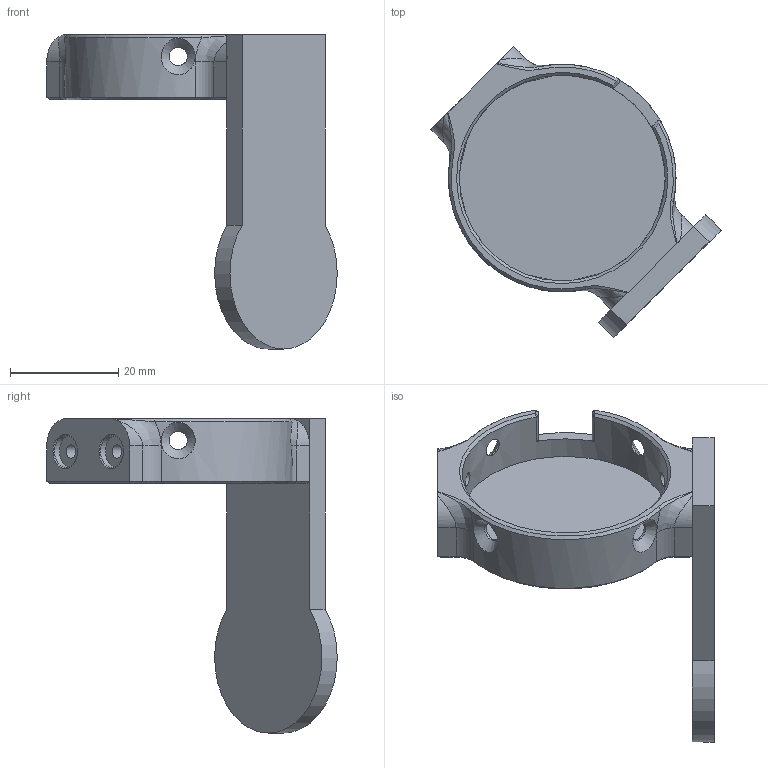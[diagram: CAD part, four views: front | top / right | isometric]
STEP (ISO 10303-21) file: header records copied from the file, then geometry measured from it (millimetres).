
FILE_DESCRIPTION (( 'STEP AP203' ), '1' );
FILE_NAME ('M-JXB2-137065-B.STEP', '2025-11-06T07:46:36', ( '' ), ( '' ), 'SwSTEP 2.0', 'SolidWorks 2019', '' );
FILE_SCHEMA (( 'CONFIG_CONTROL_DESIGN' ));
Length unit declared in the file: millimetre
Products named in the file (1): M-JXB2-137065-B
Bounding box: 53.61 x 53.61 x 58 mm (x, y, z)
Volume: 11667.3 mm3; surface area: 9212.5 mm2
Topology: 2 solids, 2 shells, 87 faces, 205 edges, 122 vertices
Faces by surface type: plane 29, cylinder 28, cone 22, bspline 8
Full cylindrical faces by diameter (mm): 2.5 x4, 3.4 x4, 6 x4, 38 x1
Entity records: 4139 total; most frequent: CARTESIAN_POINT 2242, DIRECTION 356, ORIENTED_EDGE 350, EDGE_CURVE 175, AXIS2_PLACEMENT_3D 141, EDGE_LOOP 128, VERTEX_POINT 117, FACE_OUTER_BOUND 100
